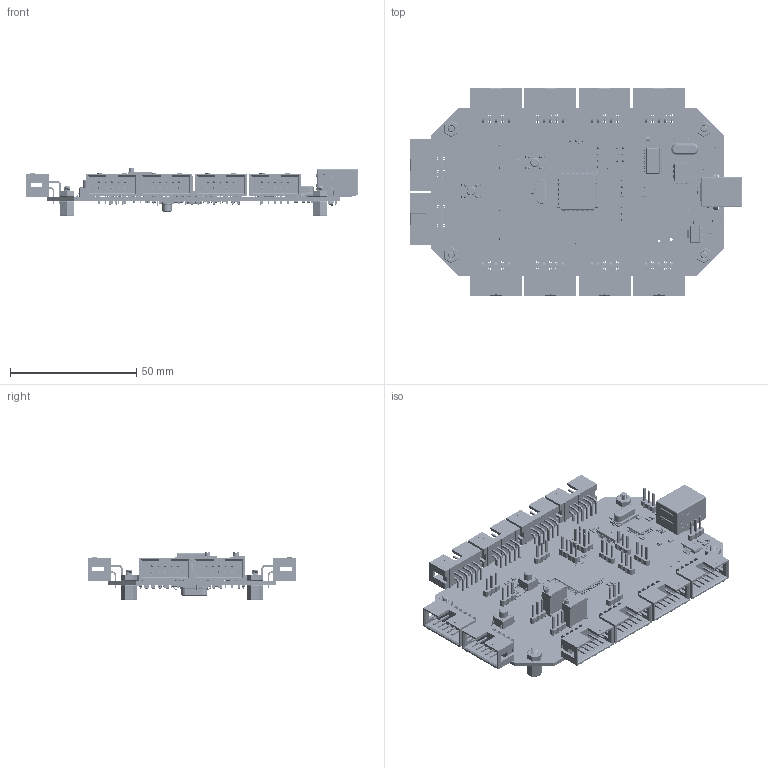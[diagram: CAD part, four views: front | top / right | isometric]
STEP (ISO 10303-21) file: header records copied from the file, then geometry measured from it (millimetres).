
FILE_DESCRIPTION(('Open CASCADE Model'),'2;1');
FILE_NAME('Open CASCADE Shape Model','2021-10-16T15:30:53',('Author'),( 'Open CASCADE'),'Open CASCADE STEP processor 6.8','Open CASCADE 6.8' ,'Unknown');
FILE_SCHEMA(('AUTOMOTIVE_DESIGN { 1 0 10303 214 1 1 1 1 }'));
Length unit declared in the file: millimetre
Products named in the file (134): PCB; Board; Open CASCADE STEP translator 6.8 1.1.1; J1; USB-B; shell-USB_BF_TH____2; contact01-USB_BF_TH____2; contact02-USB_BF_TH____2; rear_shell-USB_BF_TH____2; housing-USB_BF_TH____2; R35; R0805; C24; C0805; FB2; FB-0805; R34; R0805_450029571; R33; R32; R31; SWD; PLS-3x2; ST-LINK_COM; 栱殣鍱鴅踆0805; R30; R3; J20; PLS-4; FB1; FerriteBead; J19; PLS-3; J18; R29; R28; Trimmer_3296; R27; R26; R25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
Assembly tree (320 placements, depth 4):
  PCB
    Board
      Open CASCADE STEP translator 6.8 1.1.1
    J1
      USB-B
        shell-USB_BF_TH____2
        contact01-USB_BF_TH____2  x2
        contact02-USB_BF_TH____2  x2
        rear_shell-USB_BF_TH____2
        housing-USB_BF_TH____2
    R35
      R0805
    C24
      C0805
    FB2
      FB-0805
    R34
      R0805_450029571
    R33
      R0805_450029571
    R32
      R0805_450029571
    R31
      R0805_450029571
    SWD
      PLS-3x2
    ST-LINK_COM
      栱殣鍱鴅踆0805
    R30
      R0805_450029571
    R3
      R0805_450029571
    J20
      PLS-4
    FB1
      FerriteBead
    J19
      PLS-3
    J18
      PLS-3
    R29
      R0805_450029571
    R28
      Trimmer_3296
    R27
      Trimmer_3296
    R26
      R0805_450029571
    R25
      R0805_450029571
    J17
      PLS-3
    J16
      PLS-3
    J15
      PLS-3
    J14
      PLS-3
    PE1
      Button6x6
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Bounding box: 131.47 x 82.58 x 19.14 mm (x, y, z)
Volume: 25027 mm3; surface area: 43468.3 mm2
Topology: 279 solids, 280 shells, 18247 faces, 43928 edges, 25208 vertices
Faces by surface type: plane 9388, cylinder 5435, bspline 2136, sphere 956, extrusion 256, torus 40, cone 28, revolution 8
Full cylindrical faces by diameter (mm): 0.5 x2, 0.762 x6, 0.8 x1, 1 x150, 1.2 x1, 2.5 x2, 3.2 x4
Entity records: 173994 total; most frequent: CARTESIAN_POINT 42501, ORIENTED_EDGE 22500, DIRECTION 20898, EDGE_CURVE 11257, VECTOR 8490, LINE 8482, VERTEX_POINT 7217, AXIS2_PLACEMENT_3D 6200
